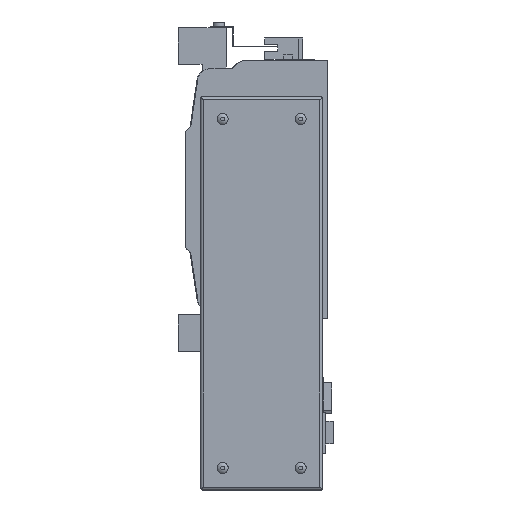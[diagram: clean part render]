
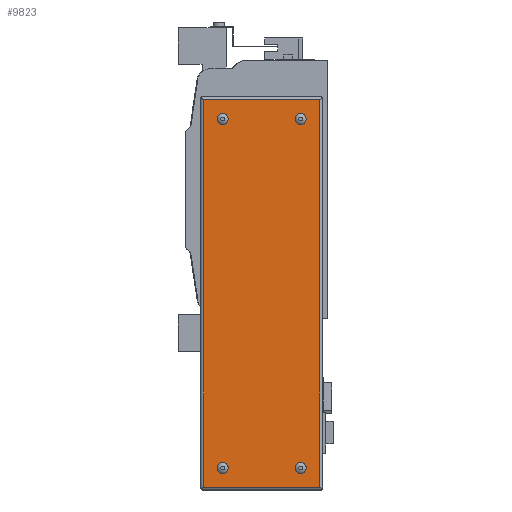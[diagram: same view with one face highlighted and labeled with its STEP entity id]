
A CAD part, left-side view. The second image highlights one B-rep face of the part: STEP entity #9823.
In plain terms, the highlighted planar face has unit normal (-1, 0, 0).
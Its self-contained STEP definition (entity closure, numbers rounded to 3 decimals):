
#283=PLANE('',#10574);
#995=LINE('',#15115,#2085);
#996=LINE('',#15118,#2086);
#997=LINE('',#15120,#2087);
#998=LINE('',#15122,#2088);
#2085=VECTOR('',#12250,1000.);
#2086=VECTOR('',#12251,1000.);
#2087=VECTOR('',#12252,1000.);
#2088=VECTOR('',#12253,1000.);
#3846=ORIENTED_EDGE('',*,*,#6037,.F.);
#3847=ORIENTED_EDGE('',*,*,#6038,.F.);
#3848=ORIENTED_EDGE('',*,*,#6039,.F.);
#3849=ORIENTED_EDGE('',*,*,#6040,.F.);
#3850=ORIENTED_EDGE('',*,*,#6041,.F.);
#3851=ORIENTED_EDGE('',*,*,#6042,.F.);
#3852=ORIENTED_EDGE('',*,*,#6043,.T.);
#3853=ORIENTED_EDGE('',*,*,#6044,.T.);
#6037=EDGE_CURVE('',#7239,#7239,#7887,.F.);
#6038=EDGE_CURVE('',#7240,#7240,#7888,.F.);
#6039=EDGE_CURVE('',#7241,#7241,#7889,.F.);
#6040=EDGE_CURVE('',#7242,#7242,#7890,.F.);
#6041=EDGE_CURVE('',#7243,#7244,#995,.T.);
#6042=EDGE_CURVE('',#7245,#7243,#996,.T.);
#6043=EDGE_CURVE('',#7245,#7246,#997,.T.);
#6044=EDGE_CURVE('',#7246,#7244,#998,.T.);
#7239=VERTEX_POINT('',#15108);
#7240=VERTEX_POINT('',#15110);
#7241=VERTEX_POINT('',#15112);
#7242=VERTEX_POINT('',#15114);
#7243=VERTEX_POINT('',#15116);
#7244=VERTEX_POINT('',#15117);
#7245=VERTEX_POINT('',#15119);
#7246=VERTEX_POINT('',#15121);
#7887=CIRCLE('',#10575,3.7);
#7888=CIRCLE('',#10576,3.7);
#7889=CIRCLE('',#10577,3.7);
#7890=CIRCLE('',#10578,3.7);
#8329=EDGE_LOOP('',(#3846));
#8330=EDGE_LOOP('',(#3847));
#8331=EDGE_LOOP('',(#3848));
#8332=EDGE_LOOP('',(#3849));
#8333=EDGE_LOOP('',(#3850,#3851,#3852,#3853));
#9046=FACE_BOUND('',#8329,.T.);
#9047=FACE_BOUND('',#8330,.T.);
#9048=FACE_BOUND('',#8331,.T.);
#9049=FACE_BOUND('',#8332,.T.);
#9050=FACE_BOUND('',#8333,.T.);
#9823=ADVANCED_FACE('',(#9046,#9047,#9048,#9049,#9050),#283,.F.);
#10574=AXIS2_PLACEMENT_3D('',#15106,#12240,#12241);
#10575=AXIS2_PLACEMENT_3D('',#15107,#12242,#12243);
#10576=AXIS2_PLACEMENT_3D('',#15109,#12244,#12245);
#10577=AXIS2_PLACEMENT_3D('',#15111,#12246,#12247);
#10578=AXIS2_PLACEMENT_3D('',#15113,#12248,#12249);
#12240=DIRECTION('',(1.,0.,0.));
#12241=DIRECTION('',(0.,0.,-1.));
#12242=DIRECTION('',(1.,0.,0.));
#12243=DIRECTION('',(0.,0.,-1.));
#12244=DIRECTION('',(1.,0.,0.));
#12245=DIRECTION('',(0.,0.,-1.));
#12246=DIRECTION('',(1.,0.,0.));
#12247=DIRECTION('',(0.,0.,-1.));
#12248=DIRECTION('',(1.,0.,0.));
#12249=DIRECTION('',(0.,0.,-1.));
#12250=DIRECTION('',(0.,0.,-1.));
#12251=DIRECTION('',(0.,-1.,0.));
#12252=DIRECTION('',(0.,0.,-1.));
#12253=DIRECTION('',(0.,-1.,0.));
#15106=CARTESIAN_POINT('',(-66.,0.,0.));
#15107=CARTESIAN_POINT('',(-66.,71.5,-189.));
#15108=CARTESIAN_POINT('',(-66.,71.5,-192.7));
#15109=CARTESIAN_POINT('',(-66.,18.5,48.));
#15110=CARTESIAN_POINT('',(-66.,18.5,44.3));
#15111=CARTESIAN_POINT('',(-66.,18.5,-189.));
#15112=CARTESIAN_POINT('',(-66.,18.5,-192.7));
#15113=CARTESIAN_POINT('',(-66.,71.5,48.));
#15114=CARTESIAN_POINT('',(-66.,71.5,44.3));
#15115=CARTESIAN_POINT('',(-66.,5.5,267.));
#15116=CARTESIAN_POINT('',(-66.,5.5,61.));
#15117=CARTESIAN_POINT('',(-66.,5.5,-202.));
#15118=CARTESIAN_POINT('',(-66.,267.,61.));
#15119=CARTESIAN_POINT('',(-66.,84.5,61.));
#15120=CARTESIAN_POINT('',(-66.,84.5,267.));
#15121=CARTESIAN_POINT('',(-66.,84.5,-202.));
#15122=CARTESIAN_POINT('',(-66.,267.,-202.));
